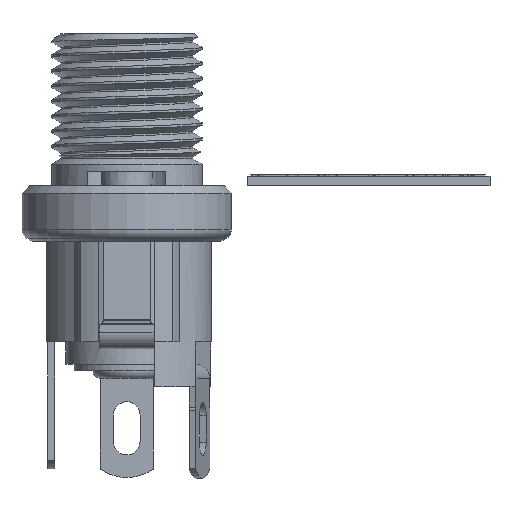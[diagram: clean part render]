
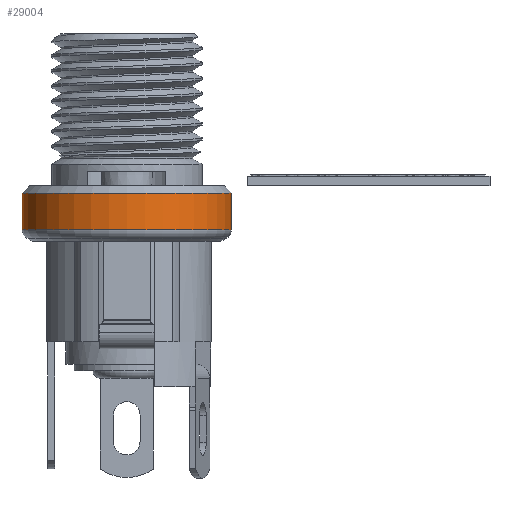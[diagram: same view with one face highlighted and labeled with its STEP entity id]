
A CAD part, front view. The second image highlights one B-rep face of the part: STEP entity #29004.
In plain terms, the highlighted cylindrical face has radius 5.512 mm (diameter 11.024 mm), a partial arc.
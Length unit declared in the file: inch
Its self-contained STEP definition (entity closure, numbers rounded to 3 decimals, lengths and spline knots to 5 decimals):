
#28556 = EDGE_CURVE ( 'NONE', #28566, #29571, #29632, .T. ) ;
#28560 = EDGE_CURVE ( 'NONE', #28567, #29573, #29099, .T. ) ;
#28566 = VERTEX_POINT ( 'NONE', #29066 ) ;
#28567 = VERTEX_POINT ( 'NONE', #29064 ) ;
#28997 = EDGE_CURVE ( 'NONE', #28567, #28566, #30942, .T. ) ;
#28998 = EDGE_LOOP ( 'NONE', ( #29000, #29001, #29015, #29108 ) ) ;
#29000 = ORIENTED_EDGE ( 'NONE', *, *, #28560, .F. ) ;
#29001 = ORIENTED_EDGE ( 'NONE', *, *, #28997, .T. ) ;
#29004 = ADVANCED_FACE ( 'NONE', ( #31077 ), #31075, .T. ) ;
#29015 = ORIENTED_EDGE ( 'NONE', *, *, #28556, .T. ) ;
#29064 = CARTESIAN_POINT ( 'NONE',  ( -0.217, 0., -0.09054 ) ) ;
#29066 = CARTESIAN_POINT ( 'NONE',  ( 0.217, 0., -0.09054 ) ) ;
#29094 = DIRECTION ( 'NONE',  ( 0., 0., 1. ) ) ;
#29095 = VECTOR ( 'NONE', #29094, 39.37008 ) ;
#29097 = CARTESIAN_POINT ( 'NONE',  ( -0.217, 0., 0. ) ) ;
#29099 = LINE ( 'NONE', #29097, #29095 ) ;
#29108 = ORIENTED_EDGE ( 'NONE', *, *, #29109, .F. ) ;
#29109 = EDGE_CURVE ( 'NONE', #29573, #29571, #31261, .T. ) ;
#29571 = VERTEX_POINT ( 'NONE', #32904 ) ;
#29573 = VERTEX_POINT ( 'NONE', #32902 ) ;
#29628 = DIRECTION ( 'NONE',  ( 0., 0., 1. ) ) ;
#29629 = VECTOR ( 'NONE', #29628, 39.37008 ) ;
#29631 = CARTESIAN_POINT ( 'NONE',  ( 0.217, 0., 0. ) ) ;
#29632 = LINE ( 'NONE', #29631, #29629 ) ;
#30936 = DIRECTION ( 'NONE',  ( 1., 0., 0. ) ) ;
#30938 = DIRECTION ( 'NONE',  ( 0., 0., 1. ) ) ;
#30940 = AXIS2_PLACEMENT_3D ( 'NONE', #30955, #30938, #30936 ) ;
#30942 = CIRCLE ( 'NONE', #30940, 0.217 ) ;
#30955 = CARTESIAN_POINT ( 'NONE',  ( 0., 0., -0.09054 ) ) ;
#31062 = DIRECTION ( 'NONE',  ( 1., 0., 0. ) ) ;
#31064 = DIRECTION ( 'NONE',  ( 0., 0., 1. ) ) ;
#31065 = CARTESIAN_POINT ( 'NONE',  ( 0., 0., 0. ) ) ;
#31067 = AXIS2_PLACEMENT_3D ( 'NONE', #31065, #31064, #31062 ) ;
#31075 = CYLINDRICAL_SURFACE ( 'NONE', #31067, 0.217 ) ;
#31077 = FACE_OUTER_BOUND ( 'NONE', #28998, .T. ) ;
#31254 = DIRECTION ( 'NONE',  ( 1., 0., 0. ) ) ;
#31256 = DIRECTION ( 'NONE',  ( 0., 0., 1. ) ) ;
#31257 = CARTESIAN_POINT ( 'NONE',  ( 0., 0., -0.015 ) ) ;
#31259 = AXIS2_PLACEMENT_3D ( 'NONE', #31257, #31256, #31254 ) ;
#31261 = CIRCLE ( 'NONE', #31259, 0.217 ) ;
#32902 = CARTESIAN_POINT ( 'NONE',  ( -0.217, 0., -0.015 ) ) ;
#32904 = CARTESIAN_POINT ( 'NONE',  ( 0.217, 0., -0.015 ) ) ;
